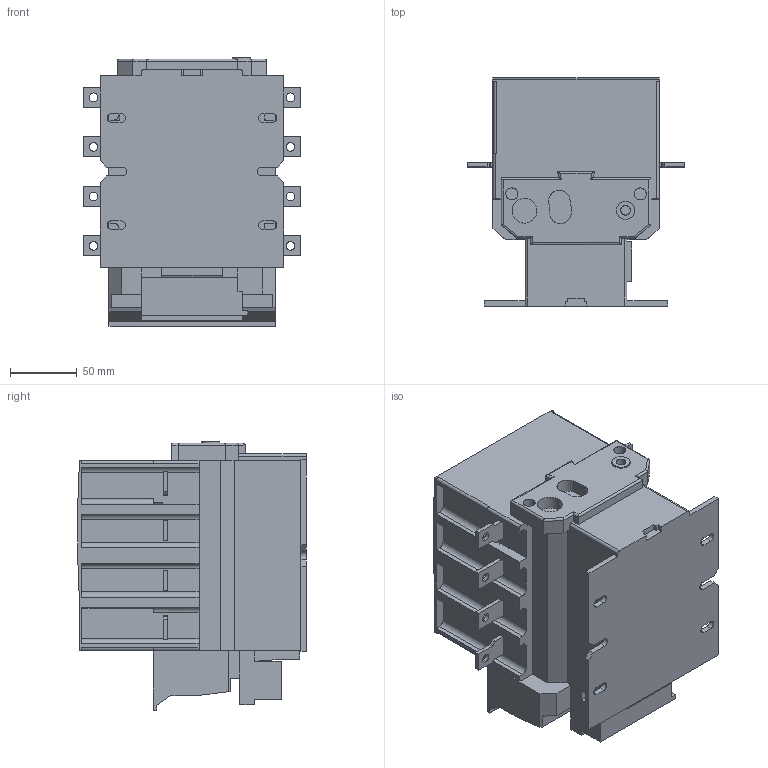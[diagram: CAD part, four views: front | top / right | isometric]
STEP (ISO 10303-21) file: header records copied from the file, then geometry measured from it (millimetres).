
FILE_DESCRIPTION (( 'STEP AP203' ), '1' );
FILE_NAME ('NDC1-1154.STEP', '2017-09-20T03:49:18', ( '' ), ( '' ), 'SwSTEP 2.0', 'SolidWorks 2011', '' );
FILE_SCHEMA (( 'CONFIG_CONTROL_DESIGN' ));
Length unit declared in the file: millimetre
Products named in the file (1): NDC1-1154
Bounding box: 162 x 170.83 x 200.5 mm (x, y, z)
Volume: 2837026.1 mm3; surface area: 203026.8 mm2
Topology: 2 solids, 4 shells, 336 faces, 914 edges, 602 vertices
Faces by surface type: plane 225, cylinder 110, bspline 1
Entity records: 12686 total; most frequent: CARTESIAN_POINT 4121, ORIENTED_EDGE 1828, DIRECTION 1630, EDGE_CURVE 914, LINE 702, VECTOR 702, VERTEX_POINT 602, AXIS2_PLACEMENT_3D 464
